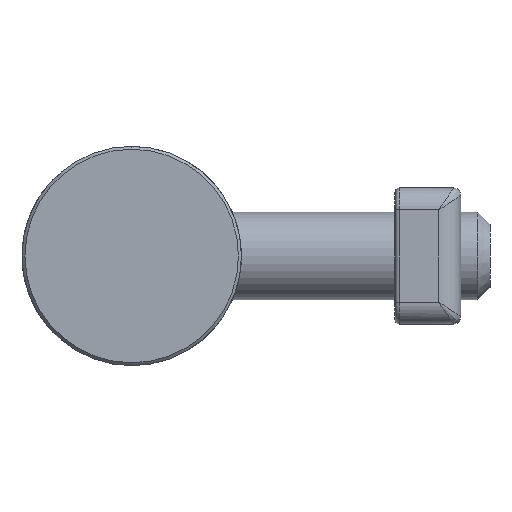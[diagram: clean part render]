
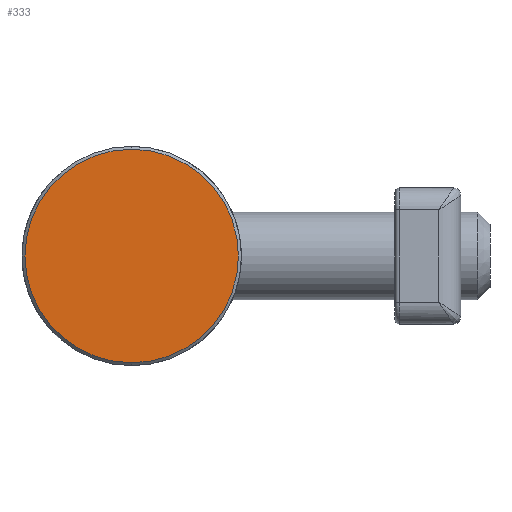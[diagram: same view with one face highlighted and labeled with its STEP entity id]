
A CAD part, front view. The second image highlights one B-rep face of the part: STEP entity #333.
In plain terms, the highlighted planar face has unit normal (0, -1, 0).
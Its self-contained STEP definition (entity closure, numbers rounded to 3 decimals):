
#241 = ORIENTED_EDGE ( 'NONE', *, *, #678, .T. ) ;
#309 = DIRECTION ( 'NONE',  ( 0., 0., 1. ) ) ;
#333 = ADVANCED_FACE ( 'NONE', ( #1747 ), #1042, .F. ) ;
#669 = EDGE_LOOP ( 'NONE', ( #796, #241 ) ) ;
#678 = EDGE_CURVE ( 'NONE', #2260, #1975, #1055, .T. ) ;
#698 = AXIS2_PLACEMENT_3D ( 'NONE', #2262, #3045, #2785 ) ;
#732 = CARTESIAN_POINT ( 'NONE',  ( -14.5, -12., -7.5 ) ) ;
#796 = ORIENTED_EDGE ( 'NONE', *, *, #1609, .T. ) ;
#1042 = PLANE ( 'NONE',  #698 ) ;
#1055 = CIRCLE ( 'NONE', #1316, 7.3 ) ;
#1080 = DIRECTION ( 'NONE',  ( 0., -1., 0. ) ) ;
#1316 = AXIS2_PLACEMENT_3D ( 'NONE', #1816, #1080, #309 ) ;
#1416 = CARTESIAN_POINT ( 'NONE',  ( -14.5, -12., -0.2 ) ) ;
#1609 = EDGE_CURVE ( 'NONE', #1975, #2260, #3237, .T. ) ;
#1747 = FACE_OUTER_BOUND ( 'NONE', #669, .T. ) ;
#1812 = AXIS2_PLACEMENT_3D ( 'NONE', #732, #1989, #2933 ) ;
#1816 = CARTESIAN_POINT ( 'NONE',  ( -14.5, -12., -7.5 ) ) ;
#1975 = VERTEX_POINT ( 'NONE', #1416 ) ;
#1980 = CARTESIAN_POINT ( 'NONE',  ( -14.5, -12., -14.8 ) ) ;
#1989 = DIRECTION ( 'NONE',  ( 0., -1., 0. ) ) ;
#2260 = VERTEX_POINT ( 'NONE', #1980 ) ;
#2262 = CARTESIAN_POINT ( 'NONE',  ( -14.5, -12., -7.5 ) ) ;
#2785 = DIRECTION ( 'NONE',  ( 0., 0., 1. ) ) ;
#2933 = DIRECTION ( 'NONE',  ( 0., 0., 1. ) ) ;
#3045 = DIRECTION ( 'NONE',  ( 0., 1., 0. ) ) ;
#3237 = CIRCLE ( 'NONE', #1812, 7.3 ) ;
